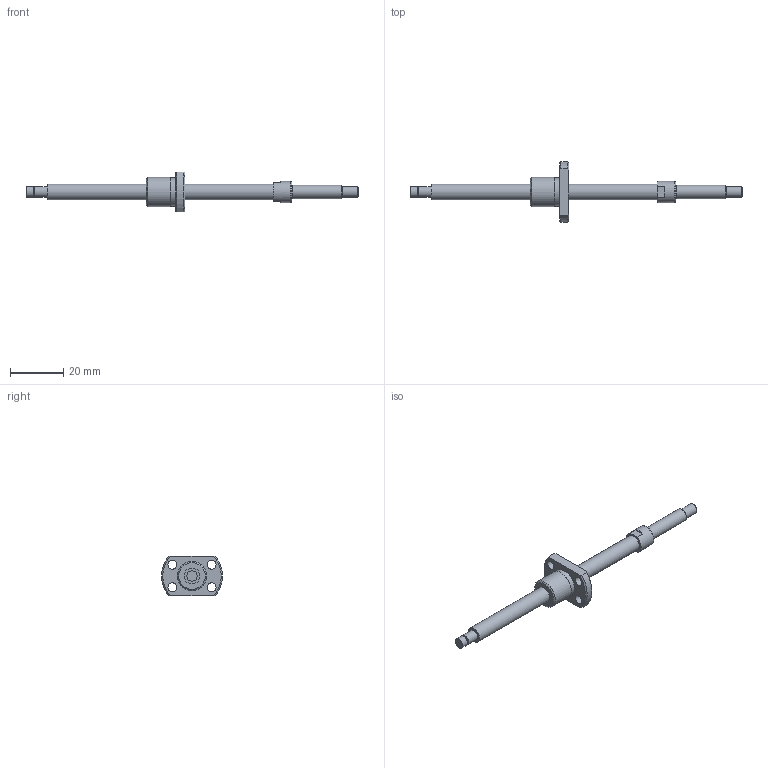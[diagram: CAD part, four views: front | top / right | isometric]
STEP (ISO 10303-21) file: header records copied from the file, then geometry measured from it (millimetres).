
FILE_DESCRIPTION(/* description */ ('STEP AP214'),/* implementation_level */ '2;1');
FILE_NAME(/* name */ 'PSRT0601K-81R125C5B0X(B37.3)',/* time_stamp */ '2026-08-06T16:11:48+02:00',/* author */ ('License CC BY-ND 4.0'),/* organization */ ('CADENAS'),/* preprocessor_version */ 'ST-DEVELOPER v20',/* originating_system */ 'PARTsolutions',/* authorisation */ ' ');
FILE_SCHEMA (('AUTOMOTIVE_DESIGN {1 0 10303 214 3 1 1}'));
Length unit declared in the file: millimetre
Products named in the file (3): PSRT0601K-81R125C5B0X(B37.3); PSRT0601KB125_shaft; PSR0601K_nut
Assembly tree (2 placements, depth 2):
  PSRT0601K-81R125C5B0X(B37.3)
    PSRT0601KB125_shaft
    PSR0601K_nut
Bounding box: 125 x 22.93 x 15 mm (x, y, z)
Volume: 4891.6 mm3; surface area: 3873.6 mm2
Topology: 2 solids, 2 shells, 43 faces, 88 edges, 57 vertices
Faces by surface type: plane 18, cylinder 16, cone 8, torus 1
Full cylindrical faces by diameter (mm): 3.4 x4, 3.7 x1, 4 x3, 5 x1, 6 x2, 8 x1, 10.6 x1, 11 x1
Entity records: 1145 total; most frequent: DIRECTION 196, CARTESIAN_POINT 194, ORIENTED_EDGE 136, AXIS2_PLACEMENT_3D 90, EDGE_LOOP 80, FACE_BOUND 80, EDGE_CURVE 68, VERTEX_POINT 56
